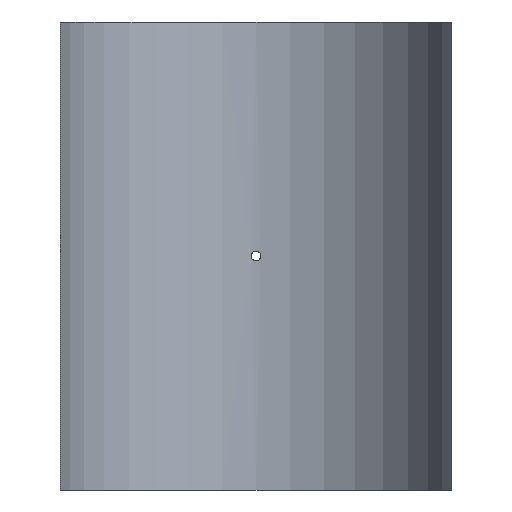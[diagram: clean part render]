
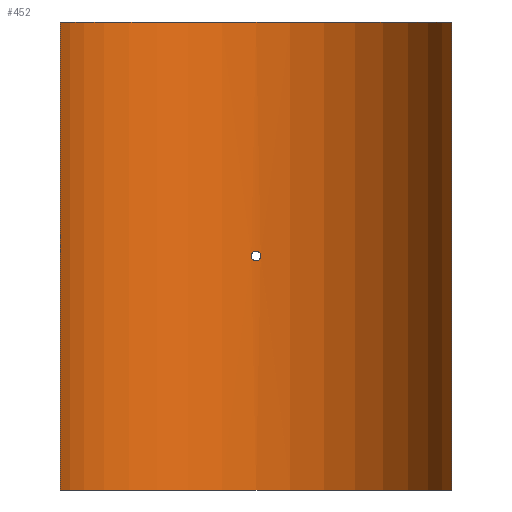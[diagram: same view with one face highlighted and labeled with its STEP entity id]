
A CAD part, front view. The second image highlights one B-rep face of the part: STEP entity #452.
In plain terms, the highlighted cylindrical face has radius 200 mm (diameter 400 mm), a partial arc.
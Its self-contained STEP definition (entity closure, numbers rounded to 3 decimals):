
#19=B_SPLINE_CURVE_WITH_KNOTS('',3,(#788,#789,#790,#791,#792,#793,#794,
#795,#796,#797,#798,#799,#800,#801,#802,#803,#804,#805,#806,#807,#808,#809,
#810,#811,#812,#813,#814,#815,#816,#817,#818,#819,#820,#821),
 .UNSPECIFIED.,.T.,.F.,(4,2,2,2,2,2,2,2,2,2,2,2,2,2,2,2,4),(0.,0.181,
0.362,0.542,0.723,0.904,
1.085,1.266,1.447,1.627,1.808,
1.989,2.17,2.351,2.531,2.712,
2.893),.UNSPECIFIED.);
#43=LINE('',#1065,#62);
#44=LINE('',#1068,#63);
#62=VECTOR('',#661,10.);
#63=VECTOR('',#664,10.);
#76=CYLINDRICAL_SURFACE('',#530,200.);
#88=FACE_BOUND('',#167,.T.);
#127=FACE_OUTER_BOUND('',#166,.T.);
#166=EDGE_LOOP('',(#405,#406,#407,#408));
#167=EDGE_LOOP('',(#409));
#201=CIRCLE('',#529,200.);
#202=CIRCLE('',#531,200.);
#219=VERTEX_POINT('',#786);
#242=VERTEX_POINT('',#1058);
#243=VERTEX_POINT('',#1060);
#244=VERTEX_POINT('',#1064);
#245=VERTEX_POINT('',#1066);
#267=EDGE_CURVE('',#219,#219,#19,.T.);
#299=EDGE_CURVE('',#242,#243,#201,.T.);
#301=EDGE_CURVE('',#244,#242,#43,.T.);
#302=EDGE_CURVE('',#245,#244,#202,.T.);
#303=EDGE_CURVE('',#245,#243,#44,.T.);
#405=ORIENTED_EDGE('',*,*,#301,.F.);
#406=ORIENTED_EDGE('',*,*,#302,.F.);
#407=ORIENTED_EDGE('',*,*,#303,.T.);
#408=ORIENTED_EDGE('',*,*,#299,.F.);
#409=ORIENTED_EDGE('',*,*,#267,.T.);
#452=ADVANCED_FACE('',(#127,#88),#76,.F.);
#529=AXIS2_PLACEMENT_3D('',#1061,#656,#657);
#530=AXIS2_PLACEMENT_3D('',#1063,#659,#660);
#531=AXIS2_PLACEMENT_3D('',#1067,#662,#663);
#656=DIRECTION('center_axis',(0.,0.,1.));
#657=DIRECTION('ref_axis',(0.983,0.186,0.));
#659=DIRECTION('center_axis',(0.,0.,1.));
#660=DIRECTION('ref_axis',(0.983,0.186,0.));
#661=DIRECTION('',(0.,0.,-1.));
#662=DIRECTION('center_axis',(0.,0.,-1.));
#663=DIRECTION('ref_axis',(0.983,0.186,0.));
#664=DIRECTION('',(0.,0.,-1.));
#786=CARTESIAN_POINT('',(4.8,199.942,0.));
#788=CARTESIAN_POINT('Ctrl Pts',(4.8,199.942,0.));
#789=CARTESIAN_POINT('Ctrl Pts',(4.8,199.942,-0.603));
#790=CARTESIAN_POINT('Ctrl Pts',(4.68,199.945,-1.246));
#791=CARTESIAN_POINT('Ctrl Pts',(4.19,199.956,-2.428));
#792=CARTESIAN_POINT('Ctrl Pts',(3.82,199.964,-2.968));
#793=CARTESIAN_POINT('Ctrl Pts',(2.968,199.978,-3.82));
#794=CARTESIAN_POINT('Ctrl Pts',(2.428,199.986,-4.19));
#795=CARTESIAN_POINT('Ctrl Pts',(1.246,199.997,-4.68));
#796=CARTESIAN_POINT('Ctrl Pts',(0.603,200.,-4.8));
#797=CARTESIAN_POINT('Ctrl Pts',(-0.603,200.,-4.8));
#798=CARTESIAN_POINT('Ctrl Pts',(-1.246,199.997,-4.68));
#799=CARTESIAN_POINT('Ctrl Pts',(-2.428,199.986,-4.19));
#800=CARTESIAN_POINT('Ctrl Pts',(-2.968,199.978,-3.82));
#801=CARTESIAN_POINT('Ctrl Pts',(-3.82,199.964,-2.968));
#802=CARTESIAN_POINT('Ctrl Pts',(-4.19,199.956,-2.428));
#803=CARTESIAN_POINT('Ctrl Pts',(-4.68,199.945,-1.246));
#804=CARTESIAN_POINT('Ctrl Pts',(-4.8,199.942,-0.603));
#805=CARTESIAN_POINT('Ctrl Pts',(-4.8,199.942,0.603));
#806=CARTESIAN_POINT('Ctrl Pts',(-4.68,199.945,1.246));
#807=CARTESIAN_POINT('Ctrl Pts',(-4.19,199.956,2.428));
#808=CARTESIAN_POINT('Ctrl Pts',(-3.82,199.964,2.968));
#809=CARTESIAN_POINT('Ctrl Pts',(-2.968,199.978,3.82));
#810=CARTESIAN_POINT('Ctrl Pts',(-2.428,199.986,4.19));
#811=CARTESIAN_POINT('Ctrl Pts',(-1.246,199.997,4.68));
#812=CARTESIAN_POINT('Ctrl Pts',(-0.603,200.,4.8));
#813=CARTESIAN_POINT('Ctrl Pts',(0.603,200.,4.8));
#814=CARTESIAN_POINT('Ctrl Pts',(1.246,199.997,4.68));
#815=CARTESIAN_POINT('Ctrl Pts',(2.428,199.986,4.19));
#816=CARTESIAN_POINT('Ctrl Pts',(2.968,199.978,3.82));
#817=CARTESIAN_POINT('Ctrl Pts',(3.82,199.964,2.968));
#818=CARTESIAN_POINT('Ctrl Pts',(4.19,199.956,2.428));
#819=CARTESIAN_POINT('Ctrl Pts',(4.68,199.945,1.246));
#820=CARTESIAN_POINT('Ctrl Pts',(4.8,199.942,0.603));
#821=CARTESIAN_POINT('Ctrl Pts',(4.8,199.942,0.));
#1058=CARTESIAN_POINT('',(196.5,37.253,-235.));
#1060=CARTESIAN_POINT('',(-196.5,37.253,-235.));
#1061=CARTESIAN_POINT('Origin',(0.,0.,
-235.));
#1063=CARTESIAN_POINT('Origin',(0.,0.,
0.));
#1064=CARTESIAN_POINT('',(196.5,37.253,235.));
#1065=CARTESIAN_POINT('',(196.5,37.253,0.));
#1066=CARTESIAN_POINT('',(-196.5,37.253,235.));
#1067=CARTESIAN_POINT('Origin',(0.,0.,
235.));
#1068=CARTESIAN_POINT('',(-196.5,37.253,0.));
